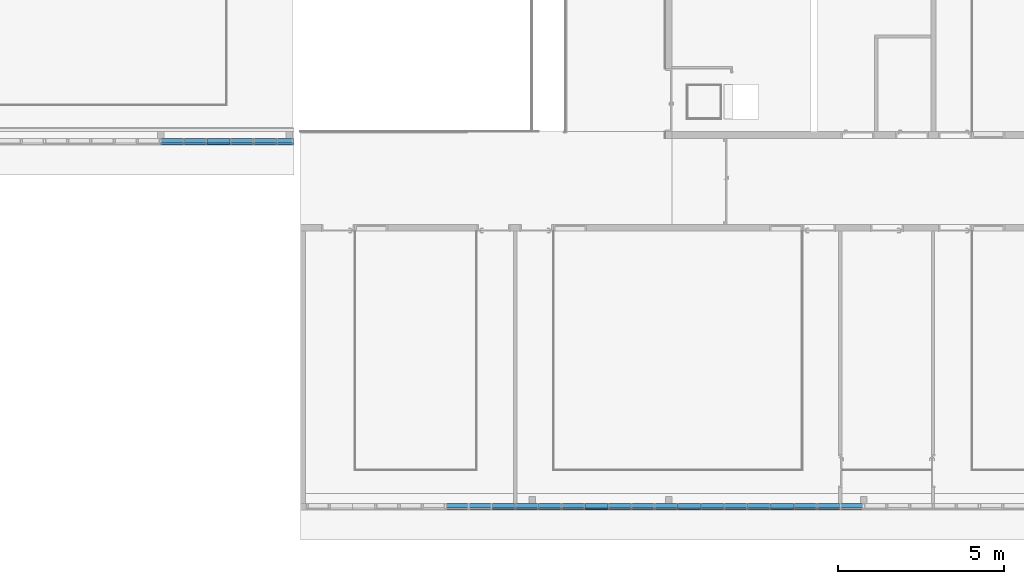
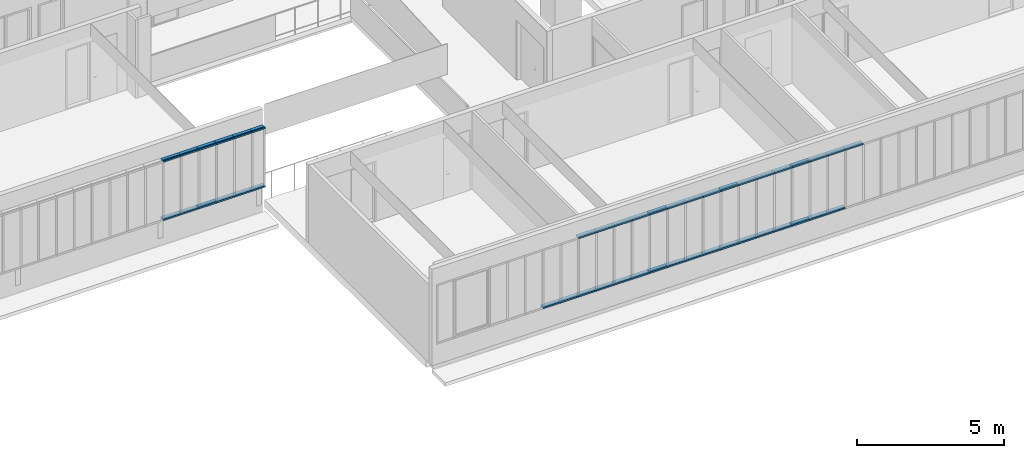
# One storey, part 13 of 87: 53 members, 2 elements without a shape of their own.
"""IFC2X3 building model written with IfcOpenShell, lengths in centimetres."""

from ifc_helpers import new_model, entity, si_unit, converted_unit, derived_unit, direction, frame, origin, place, context, subcontext, project, spatial, polyline, outline, extrude, source, transform, mapped, material, type_object, type_shapes, element, aggregate, save


model = new_model("IFC2X3")

# Units and contexts
model_context = context("Model", 3, precision=0.001, world=origin(), true_north=direction((6.12303176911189e-17, 1.0)))
body_context = subcontext(model_context, "Body", "Model", "MODEL_VIEW")
ifc_project = project(units=[si_unit("LENGTHUNIT", "METRE", prefix="CENTI"), si_unit("AREAUNIT", "SQUARE_METRE"), si_unit("VOLUMEUNIT", "CUBIC_METRE"), converted_unit("PLANEANGLEUNIT", "DEGREE", entity("IfcRatioMeasure", 0.0174532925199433), si_unit("PLANEANGLEUNIT", "RADIAN"), dimensions=[0, 0, 0, 0, 0, 0, 0]), si_unit("MASSUNIT", "GRAM", prefix="KILO"), derived_unit("MASSDENSITYUNIT", [(si_unit("MASSUNIT", "GRAM", prefix="KILO"), 1), (si_unit("LENGTHUNIT", "METRE"), -3)]), si_unit("TIMEUNIT", "SECOND"), si_unit("FREQUENCYUNIT", "HERTZ"), si_unit("THERMODYNAMICTEMPERATUREUNIT", "DEGREE_CELSIUS"), derived_unit("THERMALTRANSMITTANCEUNIT", [(si_unit("MASSUNIT", "GRAM", prefix="KILO"), 1), (si_unit("THERMODYNAMICTEMPERATUREUNIT", "KELVIN"), -1), (si_unit("TIMEUNIT", "SECOND"), -3)]), derived_unit("VOLUMETRICFLOWRATEUNIT", [(si_unit("LENGTHUNIT", "METRE"), 3), (si_unit("TIMEUNIT", "SECOND"), -1)]), si_unit("ELECTRICCURRENTUNIT", "AMPERE"), si_unit("ELECTRICVOLTAGEUNIT", "VOLT"), si_unit("POWERUNIT", "WATT"), si_unit("FORCEUNIT", "NEWTON", prefix="KILO"), si_unit("ILLUMINANCEUNIT", "LUX"), si_unit("LUMINOUSFLUXUNIT", "LUMEN"), si_unit("LUMINOUSINTENSITYUNIT", "CANDELA"), derived_unit("USERDEFINED", [(si_unit("MASSUNIT", "GRAM", prefix="KILO"), -1), (si_unit("LENGTHUNIT", "METRE"), -2), (si_unit("TIMEUNIT", "SECOND"), 3), (si_unit("LUMINOUSFLUXUNIT", "LUMEN"), 1)]), derived_unit("LINEARVELOCITYUNIT", [(si_unit("LENGTHUNIT", "METRE"), 1), (si_unit("TIMEUNIT", "SECOND"), -1)]), si_unit("PRESSUREUNIT", "PASCAL"), derived_unit("USERDEFINED", [(si_unit("LENGTHUNIT", "METRE"), -2), (si_unit("MASSUNIT", "GRAM", prefix="KILO"), 1), (si_unit("TIMEUNIT", "SECOND"), -2)])], contexts=[model_context])

# Site, building, storey
site_placement = place(None, frame((-2781.94577612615, 7442.24238424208, 0.0)))
site = spatial("IfcSite", under=ifc_project, at=site_placement, Name="Default", CompositionType="ELEMENT")
building_placement = place(site_placement, origin())
building = spatial("IfcBuilding", under=site, at=building_placement, CompositionType="ELEMENT")
storey_placement = place(building_placement, frame((0.0, 0.0, 774.0)))
storey = spatial("IfcBuildingStorey", under=building, at=storey_placement, Name="TR - N02 - ARCH", CompositionType="ELEMENT", Elevation=774.0)

# Curtain wall, members
curtain_wall_type = type_object("IfcCurtainWallType", Name="Mur-rideau:07 - mur rideau trame 70cm", PredefinedType="NOTDEFINED")
curtain_wall_1_placement = place(storey_placement, frame((0.0, 0.0, -774.0)))
curtain_wall_1 = element("IfcCurtainWall", 1, at=curtain_wall_1_placement, inside=storey, type_object=curtain_wall_type, Name="Mur-rideau:07 - mur rideau trame 70cm", ObjectType="Mur-rideau:07 - mur rideau trame 70cm")
ifc_material = material(Name="Aluminium")
member_type_1 = type_object("IfcMemberType", Name="150 x 25mm Détails", PredefinedType="MEMBER")
shared_shape_1 = source(origin(), body_context, "Body", "SweptSolid", [
    extrude(outline(polyline([(-5.6666666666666, -3.24999999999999), (-3.66666666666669, -3.24999999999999), (-3.66666666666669, -0.868749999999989), (-0.166666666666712, -0.868749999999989), (-0.166666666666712, -3.25000000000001), (13.3333333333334, -3.25000000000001), (13.3333333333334, 3.24999999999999), (-0.16666666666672, 3.24999999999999), (-0.16666666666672, 0.868749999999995), (-3.66666666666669, 0.868749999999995), (-3.66666666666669, 3.25), (-5.6666666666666, 3.25), (-5.6666666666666, -3.24999999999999)])), frame((-3.24999999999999, -1.96666666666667, -70.0), z_axis=(0.0, 0.0, 1.0), x_axis=(0.0, -1.0, 0.0)), (0.0, 0.0, 1.0), 69.9999999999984),
])
type_shapes(member_type_1, [shared_shape_1])
member_1_placement = place(storey_placement, frame((-5119.49987763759, -1946.27903364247, 332.5), z_axis=(1.0, 0.0, 0.0), x_axis=(0.0, 0.0, 1.0)))
member_1 = element("IfcMember", 2, at=member_1_placement, type_object=member_type_1, material=ifc_material, Name="Meneau rectangulaire:150 x 25mm Détails", ObjectType="Meneau rectangulaire:150 x 25mm Détails", context=body_context, shape_type="MappedRepresentation", body=[
    mapped(shared_shape_1, transform((0.0, 0.0, 0.0), scale=1.0)),
])
member_2_placement = place(storey_placement, frame((-5049.49987763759, -1946.27903364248, 332.5), z_axis=(1.0, 0.0, 0.0), x_axis=(0.0, 0.0, 1.0)))
member_2 = element("IfcMember", 3, at=member_2_placement, type_object=member_type_1, material=ifc_material, Name="Meneau rectangulaire:150 x 25mm Détails", ObjectType="Meneau rectangulaire:150 x 25mm Détails", context=body_context, shape_type="MappedRepresentation", body=[
    mapped(shared_shape_1, transform((0.0, 0.0, 0.0), scale=1.0)),
])
member_3_placement = place(storey_placement, frame((-4979.49987763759, -1946.27903364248, 332.5), z_axis=(1.0, 0.0, 0.0), x_axis=(0.0, 0.0, 1.0)))
member_3 = element("IfcMember", 4, at=member_3_placement, type_object=member_type_1, material=ifc_material, Name="Meneau rectangulaire:150 x 25mm Détails", ObjectType="Meneau rectangulaire:150 x 25mm Détails", context=body_context, shape_type="MappedRepresentation", body=[
    mapped(shared_shape_1, transform((0.0, 0.0, 0.0), scale=1.0)),
])
member_4_placement = place(storey_placement, frame((-4909.49987763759, -1946.27903364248, 332.5), z_axis=(1.0, 0.0, 0.0), x_axis=(0.0, 0.0, 1.0)))
member_4 = element("IfcMember", 5, at=member_4_placement, type_object=member_type_1, material=ifc_material, Name="Meneau rectangulaire:150 x 25mm Détails", ObjectType="Meneau rectangulaire:150 x 25mm Détails", context=body_context, shape_type="MappedRepresentation", body=[
    mapped(shared_shape_1, transform((0.0, 0.0, 0.0), scale=1.0)),
])
member_5_placement = place(storey_placement, frame((-4839.49987763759, -1946.27903364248, 332.5), z_axis=(1.0, 0.0, 0.0), x_axis=(0.0, 0.0, 1.0)))
member_5 = element("IfcMember", 6, at=member_5_placement, type_object=member_type_1, material=ifc_material, Name="Meneau rectangulaire:150 x 25mm Détails", ObjectType="Meneau rectangulaire:150 x 25mm Détails", context=body_context, shape_type="MappedRepresentation", body=[
    mapped(shared_shape_1, transform((0.0, 0.0, 0.0), scale=1.0)),
])

curtain_wall_2_placement = place(storey_placement, frame((0.0, 0.0, -774.0)))
curtain_wall_2 = element("IfcCurtainWall", 7, at=curtain_wall_2_placement, inside=storey, type_object=curtain_wall_type, Name="Mur-rideau:07 - mur rideau trame 70cm", ObjectType="Mur-rideau:07 - mur rideau trame 70cm")
member_6_placement = place(storey_placement, frame((-4120.749882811, -3046.51349958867, 332.5), z_axis=(1.0, 0.0, 0.0), x_axis=(0.0, 0.0, 1.0)))
member_6 = element("IfcMember", 8, at=member_6_placement, type_object=member_type_1, material=ifc_material, Name="Meneau rectangulaire:150 x 25mm Détails", ObjectType="Meneau rectangulaire:150 x 25mm Détails", context=body_context, shape_type="MappedRepresentation", body=[
    mapped(shared_shape_1, transform((0.0, 0.0, 0.0), scale=1.0)),
])
member_7_placement = place(storey_placement, frame((-4050.749882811, -3046.51349958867, 332.5), z_axis=(1.0, 0.0, 0.0), x_axis=(0.0, 0.0, 1.0)))
member_7 = element("IfcMember", 9, at=member_7_placement, type_object=member_type_1, material=ifc_material, Name="Meneau rectangulaire:150 x 25mm Détails", ObjectType="Meneau rectangulaire:150 x 25mm Détails", context=body_context, shape_type="MappedRepresentation", body=[
    mapped(shared_shape_1, transform((0.0, 0.0, 0.0), scale=1.0)),
])
member_8_placement = place(storey_placement, frame((-3980.749882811, -3046.51349958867, 332.5), z_axis=(1.0, 0.0, 0.0), x_axis=(0.0, 0.0, 1.0)))
member_8 = element("IfcMember", 10, at=member_8_placement, type_object=member_type_1, material=ifc_material, Name="Meneau rectangulaire:150 x 25mm Détails", ObjectType="Meneau rectangulaire:150 x 25mm Détails", context=body_context, shape_type="MappedRepresentation", body=[
    mapped(shared_shape_1, transform((0.0, 0.0, 0.0), scale=1.0)),
])
member_9_placement = place(storey_placement, frame((-3910.749882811, -3046.51349958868, 332.5), z_axis=(1.0, 0.0, 0.0), x_axis=(0.0, 0.0, 1.0)))
member_9 = element("IfcMember", 11, at=member_9_placement, type_object=member_type_1, material=ifc_material, Name="Meneau rectangulaire:150 x 25mm Détails", ObjectType="Meneau rectangulaire:150 x 25mm Détails", context=body_context, shape_type="MappedRepresentation", body=[
    mapped(shared_shape_1, transform((0.0, 0.0, 0.0), scale=1.0)),
])
member_10_placement = place(storey_placement, frame((-3840.749882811, -3046.51349958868, 332.5), z_axis=(1.0, 0.0, 0.0), x_axis=(0.0, 0.0, 1.0)))
member_10 = element("IfcMember", 12, at=member_10_placement, type_object=member_type_1, material=ifc_material, Name="Meneau rectangulaire:150 x 25mm Détails", ObjectType="Meneau rectangulaire:150 x 25mm Détails", context=body_context, shape_type="MappedRepresentation", body=[
    mapped(shared_shape_1, transform((0.0, 0.0, 0.0), scale=1.0)),
])
member_11_placement = place(storey_placement, frame((-3770.749882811, -3046.51349958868, 332.5), z_axis=(1.0, 0.0, 0.0), x_axis=(0.0, 0.0, 1.0)))
member_11 = element("IfcMember", 13, at=member_11_placement, type_object=member_type_1, material=ifc_material, Name="Meneau rectangulaire:150 x 25mm Détails", ObjectType="Meneau rectangulaire:150 x 25mm Détails", context=body_context, shape_type="MappedRepresentation", body=[
    mapped(shared_shape_1, transform((0.0, 0.0, 0.0), scale=1.0)),
])
member_12_placement = place(storey_placement, frame((-3700.749882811, -3046.51349958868, 332.5), z_axis=(1.0, 0.0, 0.0), x_axis=(0.0, 0.0, 1.0)))
member_12 = element("IfcMember", 14, at=member_12_placement, type_object=member_type_1, material=ifc_material, Name="Meneau rectangulaire:150 x 25mm Détails", ObjectType="Meneau rectangulaire:150 x 25mm Détails", context=body_context, shape_type="MappedRepresentation", body=[
    mapped(shared_shape_1, transform((0.0, 0.0, 0.0), scale=1.0)),
])
member_13_placement = place(storey_placement, frame((-3630.749882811, -3046.51349958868, 332.5), z_axis=(1.0, 0.0, 0.0), x_axis=(0.0, 0.0, 1.0)))
member_13 = element("IfcMember", 15, at=member_13_placement, type_object=member_type_1, material=ifc_material, Name="Meneau rectangulaire:150 x 25mm Détails", ObjectType="Meneau rectangulaire:150 x 25mm Détails", context=body_context, shape_type="MappedRepresentation", body=[
    mapped(shared_shape_1, transform((0.0, 0.0, 0.0), scale=1.0)),
])
member_14_placement = place(storey_placement, frame((-3560.749882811, -3046.51349958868, 332.5), z_axis=(1.0, 0.0, 0.0), x_axis=(0.0, 0.0, 1.0)))
member_14 = element("IfcMember", 16, at=member_14_placement, type_object=member_type_1, material=ifc_material, Name="Meneau rectangulaire:150 x 25mm Détails", ObjectType="Meneau rectangulaire:150 x 25mm Détails", context=body_context, shape_type="MappedRepresentation", body=[
    mapped(shared_shape_1, transform((0.0, 0.0, 0.0), scale=1.0)),
])
member_15_placement = place(storey_placement, frame((-3490.749882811, -3046.51349958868, 332.5), z_axis=(1.0, 0.0, 0.0), x_axis=(0.0, 0.0, 1.0)))
member_15 = element("IfcMember", 17, at=member_15_placement, type_object=member_type_1, material=ifc_material, Name="Meneau rectangulaire:150 x 25mm Détails", ObjectType="Meneau rectangulaire:150 x 25mm Détails", context=body_context, shape_type="MappedRepresentation", body=[
    mapped(shared_shape_1, transform((0.0, 0.0, 0.0), scale=1.0)),
])
member_16_placement = place(storey_placement, frame((-3420.749882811, -3046.51349958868, 332.5), z_axis=(1.0, 0.0, 0.0), x_axis=(0.0, 0.0, 1.0)))
member_16 = element("IfcMember", 18, at=member_16_placement, type_object=member_type_1, material=ifc_material, Name="Meneau rectangulaire:150 x 25mm Détails", ObjectType="Meneau rectangulaire:150 x 25mm Détails", context=body_context, shape_type="MappedRepresentation", body=[
    mapped(shared_shape_1, transform((0.0, 0.0, 0.0), scale=1.0)),
])
member_17_placement = place(storey_placement, frame((-3350.749882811, -3046.51349958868, 332.5), z_axis=(1.0, 0.0, 0.0), x_axis=(0.0, 0.0, 1.0)))
member_17 = element("IfcMember", 19, at=member_17_placement, type_object=member_type_1, material=ifc_material, Name="Meneau rectangulaire:150 x 25mm Détails", ObjectType="Meneau rectangulaire:150 x 25mm Détails", context=body_context, shape_type="MappedRepresentation", body=[
    mapped(shared_shape_1, transform((0.0, 0.0, 0.0), scale=1.0)),
])
member_18_placement = place(storey_placement, frame((-3280.749882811, -3046.51349958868, 332.5), z_axis=(1.0, 0.0, 0.0), x_axis=(0.0, 0.0, 1.0)))
member_18 = element("IfcMember", 20, at=member_18_placement, type_object=member_type_1, material=ifc_material, Name="Meneau rectangulaire:150 x 25mm Détails", ObjectType="Meneau rectangulaire:150 x 25mm Détails", context=body_context, shape_type="MappedRepresentation", body=[
    mapped(shared_shape_1, transform((0.0, 0.0, 0.0), scale=1.0)),
])
member_19_placement = place(storey_placement, frame((-3210.749882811, -3046.51349958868, 332.5), z_axis=(1.0, 0.0, 0.0), x_axis=(0.0, 0.0, 1.0)))
member_19 = element("IfcMember", 21, at=member_19_placement, type_object=member_type_1, material=ifc_material, Name="Meneau rectangulaire:150 x 25mm Détails", ObjectType="Meneau rectangulaire:150 x 25mm Détails", context=body_context, shape_type="MappedRepresentation", body=[
    mapped(shared_shape_1, transform((0.0, 0.0, 0.0), scale=1.0)),
])
member_20_placement = place(storey_placement, frame((-3140.749882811, -3046.51349958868, 332.5), z_axis=(1.0, 0.0, 0.0), x_axis=(0.0, 0.0, 1.0)))
member_20 = element("IfcMember", 22, at=member_20_placement, type_object=member_type_1, material=ifc_material, Name="Meneau rectangulaire:150 x 25mm Détails", ObjectType="Meneau rectangulaire:150 x 25mm Détails", context=body_context, shape_type="MappedRepresentation", body=[
    mapped(shared_shape_1, transform((0.0, 0.0, 0.0), scale=1.0)),
])
member_21_placement = place(storey_placement, frame((-3070.749882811, -3046.51349958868, 332.5), z_axis=(1.0, 0.0, 0.0), x_axis=(0.0, 0.0, 1.0)))
member_21 = element("IfcMember", 23, at=member_21_placement, type_object=member_type_1, material=ifc_material, Name="Meneau rectangulaire:150 x 25mm Détails", ObjectType="Meneau rectangulaire:150 x 25mm Détails", context=body_context, shape_type="MappedRepresentation", body=[
    mapped(shared_shape_1, transform((0.0, 0.0, 0.0), scale=1.0)),
])

# Member
member_type_2 = type_object("IfcMemberType", Name="150 x 25mm Détails", PredefinedType="MEMBER")
shared_shape_2 = source(origin(), body_context, "Body", "SweptSolid", [
    extrude(outline(polyline([(-5.66666666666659, -3.25), (-3.66666666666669, -3.25), (-3.66666666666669, -0.868749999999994), (-0.166666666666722, -0.868749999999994), (-0.166666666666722, -3.25000000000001), (13.3333333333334, -3.24999999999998), (13.3333333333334, 3.25000000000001), (-0.166666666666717, 3.25000000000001), (-0.166666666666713, 0.868749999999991), (-3.66666666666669, 0.868749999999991), (-3.66666666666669, 3.24999999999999), (-5.66666666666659, 3.24999999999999), (-5.66666666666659, -3.25)])), frame((-3.24999999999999, -1.96666666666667, -70.0), z_axis=(0.0, 0.0, 1.0), x_axis=(0.0, -1.0, 0.0)), (0.0, 0.0, 1.0), 69.9999999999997),
])
type_shapes(member_type_2, [shared_shape_2])
member_22_placement = place(storey_placement, frame((-5189.49987763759, -1946.27903364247, 83.5), z_axis=(-1.0, 0.0, 0.0), x_axis=(0.0, 0.0, -1.0)))
member_22 = element("IfcMember", 24, at=member_22_placement, type_object=member_type_2, material=ifc_material, Name="Meneau rectangulaire:150 x 25mm Détails", ObjectType="Meneau rectangulaire:150 x 25mm Détails", context=body_context, shape_type="MappedRepresentation", body=[
    mapped(shared_shape_2, transform((0.0, 0.0, 0.0), scale=1.0)),
])

member_23_placement = place(storey_placement, frame((-5119.49987763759, -1946.27903364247, 83.5), z_axis=(-1.0, 0.0, 0.0), x_axis=(0.0, 0.0, -1.0)))
member_23 = element("IfcMember", 25, at=member_23_placement, type_object=member_type_2, material=ifc_material, Name="Meneau rectangulaire:150 x 25mm Détails", ObjectType="Meneau rectangulaire:150 x 25mm Détails", context=body_context, shape_type="MappedRepresentation", body=[
    mapped(shared_shape_2, transform((0.0, 0.0, 0.0), scale=1.0)),
])

member_24_placement = place(storey_placement, frame((-5049.49987763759, -1946.27903364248, 83.5), z_axis=(-1.0, 0.0, 0.0), x_axis=(0.0, 0.0, -1.0)))
member_24 = element("IfcMember", 26, at=member_24_placement, type_object=member_type_2, material=ifc_material, Name="Meneau rectangulaire:150 x 25mm Détails", ObjectType="Meneau rectangulaire:150 x 25mm Détails", context=body_context, shape_type="MappedRepresentation", body=[
    mapped(shared_shape_2, transform((0.0, 0.0, 0.0), scale=1.0)),
])

member_25_placement = place(storey_placement, frame((-4979.49987763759, -1946.27903364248, 83.5), z_axis=(-1.0, 0.0, 0.0), x_axis=(0.0, 0.0, -1.0)))
member_25 = element("IfcMember", 27, at=member_25_placement, type_object=member_type_2, material=ifc_material, Name="Meneau rectangulaire:150 x 25mm Détails", ObjectType="Meneau rectangulaire:150 x 25mm Détails", context=body_context, shape_type="MappedRepresentation", body=[
    mapped(shared_shape_2, transform((0.0, 0.0, 0.0), scale=1.0)),
])

member_26_placement = place(storey_placement, frame((-4909.49987763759, -1946.27903364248, 83.5), z_axis=(-1.0, 0.0, 0.0), x_axis=(0.0, 0.0, -1.0)))
member_26 = element("IfcMember", 28, at=member_26_placement, type_object=member_type_2, material=ifc_material, Name="Meneau rectangulaire:150 x 25mm Détails", ObjectType="Meneau rectangulaire:150 x 25mm Détails", context=body_context, shape_type="MappedRepresentation", body=[
    mapped(shared_shape_2, transform((0.0, 0.0, 0.0), scale=1.0)),
])

member_27_placement = place(storey_placement, frame((-4330.749882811, -3046.51349958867, 83.5000000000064), z_axis=(-1.0, 0.0, 0.0), x_axis=(0.0, 0.0, -1.0)))
member_27 = element("IfcMember", 29, at=member_27_placement, type_object=member_type_2, material=ifc_material, Name="Meneau rectangulaire:150 x 25mm Détails", ObjectType="Meneau rectangulaire:150 x 25mm Détails", context=body_context, shape_type="MappedRepresentation", body=[
    mapped(shared_shape_2, transform((0.0, 0.0, 0.0), scale=1.0)),
])

member_28_placement = place(storey_placement, frame((-4260.749882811, -3046.51349958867, 83.5000000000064), z_axis=(-1.0, 0.0, 0.0), x_axis=(0.0, 0.0, -1.0)))
member_28 = element("IfcMember", 30, at=member_28_placement, type_object=member_type_2, material=ifc_material, Name="Meneau rectangulaire:150 x 25mm Détails", ObjectType="Meneau rectangulaire:150 x 25mm Détails", context=body_context, shape_type="MappedRepresentation", body=[
    mapped(shared_shape_2, transform((0.0, 0.0, 0.0), scale=1.0)),
])

member_29_placement = place(storey_placement, frame((-4190.749882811, -3046.51349958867, 83.5000000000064), z_axis=(-1.0, 0.0, 0.0), x_axis=(0.0, 0.0, -1.0)))
member_29 = element("IfcMember", 31, at=member_29_placement, type_object=member_type_2, material=ifc_material, Name="Meneau rectangulaire:150 x 25mm Détails", ObjectType="Meneau rectangulaire:150 x 25mm Détails", context=body_context, shape_type="MappedRepresentation", body=[
    mapped(shared_shape_2, transform((0.0, 0.0, 0.0), scale=1.0)),
])

member_30_placement = place(storey_placement, frame((-4120.749882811, -3046.51349958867, 83.5000000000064), z_axis=(-1.0, 0.0, 0.0), x_axis=(0.0, 0.0, -1.0)))
member_30 = element("IfcMember", 32, at=member_30_placement, type_object=member_type_2, material=ifc_material, Name="Meneau rectangulaire:150 x 25mm Détails", ObjectType="Meneau rectangulaire:150 x 25mm Détails", context=body_context, shape_type="MappedRepresentation", body=[
    mapped(shared_shape_2, transform((0.0, 0.0, 0.0), scale=1.0)),
])

member_31_placement = place(storey_placement, frame((-4050.749882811, -3046.51349958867, 83.5000000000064), z_axis=(-1.0, 0.0, 0.0), x_axis=(0.0, 0.0, -1.0)))
member_31 = element("IfcMember", 33, at=member_31_placement, type_object=member_type_2, material=ifc_material, Name="Meneau rectangulaire:150 x 25mm Détails", ObjectType="Meneau rectangulaire:150 x 25mm Détails", context=body_context, shape_type="MappedRepresentation", body=[
    mapped(shared_shape_2, transform((0.0, 0.0, 0.0), scale=1.0)),
])

member_32_placement = place(storey_placement, frame((-3980.749882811, -3046.51349958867, 83.5000000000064), z_axis=(-1.0, 0.0, 0.0), x_axis=(0.0, 0.0, -1.0)))
member_32 = element("IfcMember", 34, at=member_32_placement, type_object=member_type_2, material=ifc_material, Name="Meneau rectangulaire:150 x 25mm Détails", ObjectType="Meneau rectangulaire:150 x 25mm Détails", context=body_context, shape_type="MappedRepresentation", body=[
    mapped(shared_shape_2, transform((0.0, 0.0, 0.0), scale=1.0)),
])

member_33_placement = place(storey_placement, frame((-3910.749882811, -3046.51349958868, 83.5000000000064), z_axis=(-1.0, 0.0, 0.0), x_axis=(0.0, 0.0, -1.0)))
member_33 = element("IfcMember", 35, at=member_33_placement, type_object=member_type_2, material=ifc_material, Name="Meneau rectangulaire:150 x 25mm Détails", ObjectType="Meneau rectangulaire:150 x 25mm Détails", context=body_context, shape_type="MappedRepresentation", body=[
    mapped(shared_shape_2, transform((0.0, 0.0, 0.0), scale=1.0)),
])

member_34_placement = place(storey_placement, frame((-3840.749882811, -3046.51349958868, 83.5000000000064), z_axis=(-1.0, 0.0, 0.0), x_axis=(0.0, 0.0, -1.0)))
member_34 = element("IfcMember", 36, at=member_34_placement, type_object=member_type_2, material=ifc_material, Name="Meneau rectangulaire:150 x 25mm Détails", ObjectType="Meneau rectangulaire:150 x 25mm Détails", context=body_context, shape_type="MappedRepresentation", body=[
    mapped(shared_shape_2, transform((0.0, 0.0, 0.0), scale=1.0)),
])

member_35_placement = place(storey_placement, frame((-3770.749882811, -3046.51349958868, 83.5000000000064), z_axis=(-1.0, 0.0, 0.0), x_axis=(0.0, 0.0, -1.0)))
member_35 = element("IfcMember", 37, at=member_35_placement, type_object=member_type_2, material=ifc_material, Name="Meneau rectangulaire:150 x 25mm Détails", ObjectType="Meneau rectangulaire:150 x 25mm Détails", context=body_context, shape_type="MappedRepresentation", body=[
    mapped(shared_shape_2, transform((0.0, 0.0, 0.0), scale=1.0)),
])

member_36_placement = place(storey_placement, frame((-3700.749882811, -3046.51349958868, 83.5000000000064), z_axis=(-1.0, 0.0, 0.0), x_axis=(0.0, 0.0, -1.0)))
member_36 = element("IfcMember", 38, at=member_36_placement, type_object=member_type_2, material=ifc_material, Name="Meneau rectangulaire:150 x 25mm Détails", ObjectType="Meneau rectangulaire:150 x 25mm Détails", context=body_context, shape_type="MappedRepresentation", body=[
    mapped(shared_shape_2, transform((0.0, 0.0, 0.0), scale=1.0)),
])

member_37_placement = place(storey_placement, frame((-3630.749882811, -3046.51349958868, 83.5000000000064), z_axis=(-1.0, 0.0, 0.0), x_axis=(0.0, 0.0, -1.0)))
member_37 = element("IfcMember", 39, at=member_37_placement, type_object=member_type_2, material=ifc_material, Name="Meneau rectangulaire:150 x 25mm Détails", ObjectType="Meneau rectangulaire:150 x 25mm Détails", context=body_context, shape_type="MappedRepresentation", body=[
    mapped(shared_shape_2, transform((0.0, 0.0, 0.0), scale=1.0)),
])

member_38_placement = place(storey_placement, frame((-3560.749882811, -3046.51349958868, 83.5000000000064), z_axis=(-1.0, 0.0, 0.0), x_axis=(0.0, 0.0, -1.0)))
member_38 = element("IfcMember", 40, at=member_38_placement, type_object=member_type_2, material=ifc_material, Name="Meneau rectangulaire:150 x 25mm Détails", ObjectType="Meneau rectangulaire:150 x 25mm Détails", context=body_context, shape_type="MappedRepresentation", body=[
    mapped(shared_shape_2, transform((0.0, 0.0, 0.0), scale=1.0)),
])

member_39_placement = place(storey_placement, frame((-3490.749882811, -3046.51349958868, 83.5000000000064), z_axis=(-1.0, 0.0, 0.0), x_axis=(0.0, 0.0, -1.0)))
member_39 = element("IfcMember", 41, at=member_39_placement, type_object=member_type_2, material=ifc_material, Name="Meneau rectangulaire:150 x 25mm Détails", ObjectType="Meneau rectangulaire:150 x 25mm Détails", context=body_context, shape_type="MappedRepresentation", body=[
    mapped(shared_shape_2, transform((0.0, 0.0, 0.0), scale=1.0)),
])

member_40_placement = place(storey_placement, frame((-3420.749882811, -3046.51349958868, 83.5000000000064), z_axis=(-1.0, 0.0, 0.0), x_axis=(0.0, 0.0, -1.0)))
member_40 = element("IfcMember", 42, at=member_40_placement, type_object=member_type_2, material=ifc_material, Name="Meneau rectangulaire:150 x 25mm Détails", ObjectType="Meneau rectangulaire:150 x 25mm Détails", context=body_context, shape_type="MappedRepresentation", body=[
    mapped(shared_shape_2, transform((0.0, 0.0, 0.0), scale=1.0)),
])

member_41_placement = place(storey_placement, frame((-3350.749882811, -3046.51349958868, 83.5000000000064), z_axis=(-1.0, 0.0, 0.0), x_axis=(0.0, 0.0, -1.0)))
member_41 = element("IfcMember", 43, at=member_41_placement, type_object=member_type_2, material=ifc_material, Name="Meneau rectangulaire:150 x 25mm Détails", ObjectType="Meneau rectangulaire:150 x 25mm Détails", context=body_context, shape_type="MappedRepresentation", body=[
    mapped(shared_shape_2, transform((0.0, 0.0, 0.0), scale=1.0)),
])

member_42_placement = place(storey_placement, frame((-3280.749882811, -3046.51349958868, 83.5000000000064), z_axis=(-1.0, 0.0, 0.0), x_axis=(0.0, 0.0, -1.0)))
member_42 = element("IfcMember", 44, at=member_42_placement, type_object=member_type_2, material=ifc_material, Name="Meneau rectangulaire:150 x 25mm Détails", ObjectType="Meneau rectangulaire:150 x 25mm Détails", context=body_context, shape_type="MappedRepresentation", body=[
    mapped(shared_shape_2, transform((0.0, 0.0, 0.0), scale=1.0)),
])

member_43_placement = place(storey_placement, frame((-3210.749882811, -3046.51349958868, 83.5000000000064), z_axis=(-1.0, 0.0, 0.0), x_axis=(0.0, 0.0, -1.0)))
member_43 = element("IfcMember", 45, at=member_43_placement, type_object=member_type_2, material=ifc_material, Name="Meneau rectangulaire:150 x 25mm Détails", ObjectType="Meneau rectangulaire:150 x 25mm Détails", context=body_context, shape_type="MappedRepresentation", body=[
    mapped(shared_shape_2, transform((0.0, 0.0, 0.0), scale=1.0)),
])

member_type_3 = type_object("IfcMemberType", Name="150 x 25mm Détails", PredefinedType="MEMBER")
shared_shape_3 = source(origin(), body_context, "Body", "SweptSolid", [
    extrude(outline(polyline([(-5.66666666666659, -3.25), (-3.66666666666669, -3.25), (-3.66666666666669, -0.868749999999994), (-0.166666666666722, -0.868749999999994), (-0.166666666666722, -3.25000000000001), (13.3333333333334, -3.24999999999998), (13.3333333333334, 3.25000000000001), (-0.166666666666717, 3.25000000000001), (-0.166666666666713, 0.868749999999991), (-3.66666666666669, 0.868749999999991), (-3.66666666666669, 3.24999999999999), (-5.66666666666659, 3.24999999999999), (-5.66666666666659, -3.25)])), frame((-3.24999999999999, -1.96666666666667, -68.0), z_axis=(0.0, 0.0, 1.0), x_axis=(0.0, -1.0, 0.0)), (0.0, 0.0, 1.0), 68.0000000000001),
])
type_shapes(member_type_3, [shared_shape_3])
member_44_placement = place(storey_placement, frame((-5048.74987242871, -1946.27903364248, 326.0), z_axis=(-1.0, 0.0, 0.0), x_axis=(0.0, 0.0, -1.0)))
member_44 = element("IfcMember", 46, at=member_44_placement, type_object=member_type_3, material=ifc_material, Name="Meneau rectangulaire:150 x 25mm Détails", ObjectType="Meneau rectangulaire:150 x 25mm Détails", context=body_context, shape_type="MappedRepresentation", body=[
    mapped(shared_shape_3, transform((0.0, 0.0, 0.0), scale=1.0)),
])

member_45_placement = place(storey_placement, frame((-3909.99987760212, -3046.51349958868, 326.0), z_axis=(-1.0, 0.0, 0.0), x_axis=(0.0, 0.0, -1.0)))
member_45 = element("IfcMember", 47, at=member_45_placement, type_object=member_type_3, material=ifc_material, Name="Meneau rectangulaire:150 x 25mm Détails", ObjectType="Meneau rectangulaire:150 x 25mm Détails", context=body_context, shape_type="MappedRepresentation", body=[
    mapped(shared_shape_3, transform((0.0, 0.0, 0.0), scale=1.0)),
])

member_46_placement = place(storey_placement, frame((-3629.99987760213, -3046.51349958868, 326.0), z_axis=(-1.0, 0.0, 0.0), x_axis=(0.0, 0.0, -1.0)))
member_46 = element("IfcMember", 48, at=member_46_placement, type_object=member_type_3, material=ifc_material, Name="Meneau rectangulaire:150 x 25mm Détails", ObjectType="Meneau rectangulaire:150 x 25mm Détails", context=body_context, shape_type="MappedRepresentation", body=[
    mapped(shared_shape_3, transform((0.0, 0.0, 0.0), scale=1.0)),
])

member_47_placement = place(storey_placement, frame((-3349.99987760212, -3046.51349958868, 326.0), z_axis=(-1.0, 0.0, 0.0), x_axis=(0.0, 0.0, -1.0)))
member_47 = element("IfcMember", 49, at=member_47_placement, type_object=member_type_3, material=ifc_material, Name="Meneau rectangulaire:150 x 25mm Détails", ObjectType="Meneau rectangulaire:150 x 25mm Détails", context=body_context, shape_type="MappedRepresentation", body=[
    mapped(shared_shape_3, transform((0.0, 0.0, 0.0), scale=1.0)),
])

member_type_4 = type_object("IfcMemberType", Name="150 x 25mm Détails", PredefinedType="MEMBER")
shared_shape_4 = source(origin(), body_context, "Body", "SweptSolid", [
    extrude(outline(polyline([(-5.6666666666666, -3.24999999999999), (-3.66666666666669, -3.24999999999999), (-3.66666666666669, -0.868749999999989), (-0.166666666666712, -0.868749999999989), (-0.166666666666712, -3.25000000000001), (13.3333333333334, -3.25000000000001), (13.3333333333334, 3.24999999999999), (-0.16666666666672, 3.24999999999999), (-0.16666666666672, 0.868749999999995), (-3.66666666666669, 0.868749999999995), (-3.66666666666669, 3.25), (-5.6666666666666, 3.25), (-5.6666666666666, -3.24999999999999)])), frame((-3.24999999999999, -1.96666666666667, -68.0), z_axis=(0.0, 0.0, 1.0), x_axis=(0.0, -1.0, 0.0)), (0.0, 0.0, 1.0), 68.0000000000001),
])
type_shapes(member_type_4, [shared_shape_4])
member_48_placement = place(storey_placement, frame((-4980.74987242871, -1946.27903364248, 90.0), z_axis=(1.0, 0.0, 0.0), x_axis=(0.0, 0.0, 1.0)))
member_48 = element("IfcMember", 50, at=member_48_placement, type_object=member_type_4, material=ifc_material, Name="Meneau rectangulaire:150 x 25mm Détails", ObjectType="Meneau rectangulaire:150 x 25mm Détails", context=body_context, shape_type="MappedRepresentation", body=[
    mapped(shared_shape_4, transform((0.0, 0.0, 0.0), scale=1.0)),
])

member_49_placement = place(storey_placement, frame((-3841.99987760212, -3046.51349958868, 90.0), z_axis=(1.0, 0.0, 0.0), x_axis=(0.0, 0.0, 1.0)))
member_49 = element("IfcMember", 51, at=member_49_placement, type_object=member_type_4, material=ifc_material, Name="Meneau rectangulaire:150 x 25mm Détails", ObjectType="Meneau rectangulaire:150 x 25mm Détails", context=body_context, shape_type="MappedRepresentation", body=[
    mapped(shared_shape_4, transform((0.0, 0.0, 0.0), scale=1.0)),
])

member_50_placement = place(storey_placement, frame((-3561.99987760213, -3046.51349958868, 90.0), z_axis=(1.0, 0.0, 0.0), x_axis=(0.0, 0.0, 1.0)))
member_50 = element("IfcMember", 52, at=member_50_placement, type_object=member_type_4, material=ifc_material, Name="Meneau rectangulaire:150 x 25mm Détails", ObjectType="Meneau rectangulaire:150 x 25mm Détails", context=body_context, shape_type="MappedRepresentation", body=[
    mapped(shared_shape_4, transform((0.0, 0.0, 0.0), scale=1.0)),
])

member_51_placement = place(storey_placement, frame((-3281.99987760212, -3046.51349958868, 90.0), z_axis=(1.0, 0.0, 0.0), x_axis=(0.0, 0.0, 1.0)))
member_51 = element("IfcMember", 53, at=member_51_placement, type_object=member_type_4, material=ifc_material, Name="Meneau rectangulaire:150 x 25mm Détails", ObjectType="Meneau rectangulaire:150 x 25mm Détails", context=body_context, shape_type="MappedRepresentation", body=[
    mapped(shared_shape_4, transform((0.0, 0.0, 0.0), scale=1.0)),
])

aggregate(curtain_wall_2, [member_6, member_7, member_8, member_9, member_10, member_11, member_12, member_13, member_14, member_15, member_16, member_17, member_18, member_19, member_20, member_21, member_27, member_28, member_29, member_30, member_31, member_32, member_33, member_34, member_35, member_36, member_37, member_38, member_39, member_40, member_41, member_42, member_43, member_45, member_49, member_46, member_50, member_47, member_51])

member_type_5 = type_object("IfcMemberType", Name="150 x 25mm Détails", PredefinedType="MEMBER")
shared_shape_5 = source(origin(), body_context, "Body", "SweptSolid", [
    extrude(outline(polyline([(-5.6666666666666, -3.24999999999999), (-3.66666666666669, -3.24999999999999), (-3.66666666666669, -0.868749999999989), (-0.166666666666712, -0.868749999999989), (-0.166666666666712, -3.25000000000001), (13.3333333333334, -3.25000000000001), (13.3333333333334, 3.24999999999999), (-0.16666666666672, 3.24999999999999), (-0.16666666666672, 0.868749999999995), (-3.66666666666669, 0.868749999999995), (-3.66666666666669, 3.25), (-5.6666666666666, 3.25), (-5.6666666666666, -3.24999999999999)])), frame((-3.24999999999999, -1.96666666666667, -51.5000000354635), z_axis=(0.0, 0.0, 1.0), x_axis=(0.0, -1.0, 0.0)), (0.0, 0.0, 1.0), 51.5000000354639),
])
type_shapes(member_type_5, [shared_shape_5])
member_52_placement = place(storey_placement, frame((-4787.99987760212, -1946.27903364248, 332.5), z_axis=(1.0, 0.0, 0.0), x_axis=(0.0, 0.0, 1.0)))
member_52 = element("IfcMember", 54, at=member_52_placement, type_object=member_type_5, material=ifc_material, Name="Meneau rectangulaire:150 x 25mm Détails", ObjectType="Meneau rectangulaire:150 x 25mm Détails", context=body_context, shape_type="MappedRepresentation", body=[
    mapped(shared_shape_5, transform((0.0, 0.0, 0.0), scale=1.0)),
])

member_type_6 = type_object("IfcMemberType", Name="150 x 25mm Détails", PredefinedType="MEMBER")
shared_shape_6 = source(origin(), body_context, "Body", "SweptSolid", [
    extrude(outline(polyline([(-5.66666666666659, -3.25), (-3.66666666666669, -3.25), (-3.66666666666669, -0.868749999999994), (-0.166666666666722, -0.868749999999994), (-0.166666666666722, -3.25000000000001), (13.3333333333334, -3.24999999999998), (13.3333333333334, 3.25000000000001), (-0.166666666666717, 3.25000000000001), (-0.166666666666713, 0.868749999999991), (-3.66666666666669, 0.868749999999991), (-3.66666666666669, 3.24999999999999), (-5.66666666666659, 3.24999999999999), (-5.66666666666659, -3.25)])), frame((-3.24999999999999, -1.96666666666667, -51.5000000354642), z_axis=(0.0, 0.0, 1.0), x_axis=(0.0, -1.0, 0.0)), (0.0, 0.0, 1.0), 51.5000000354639),
])
type_shapes(member_type_6, [shared_shape_6])
member_53_placement = place(storey_placement, frame((-4839.49987763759, -1946.27903364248, 83.5), z_axis=(-1.0, 0.0, 0.0), x_axis=(0.0, 0.0, -1.0)))
member_53 = element("IfcMember", 55, at=member_53_placement, type_object=member_type_6, material=ifc_material, Name="Meneau rectangulaire:150 x 25mm Détails", ObjectType="Meneau rectangulaire:150 x 25mm Détails", context=body_context, shape_type="MappedRepresentation", body=[
    mapped(shared_shape_6, transform((0.0, 0.0, 0.0), scale=1.0)),
])

aggregate(curtain_wall_1, [member_52, member_1, member_2, member_3, member_4, member_5, member_22, member_23, member_24, member_25, member_26, member_53, member_44, member_48])

save(model, "model.ifc")
